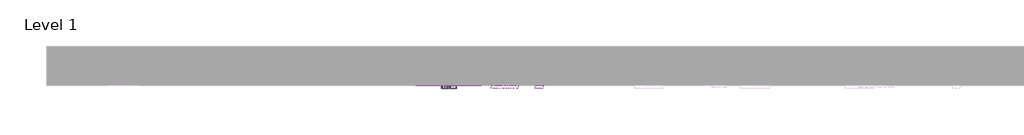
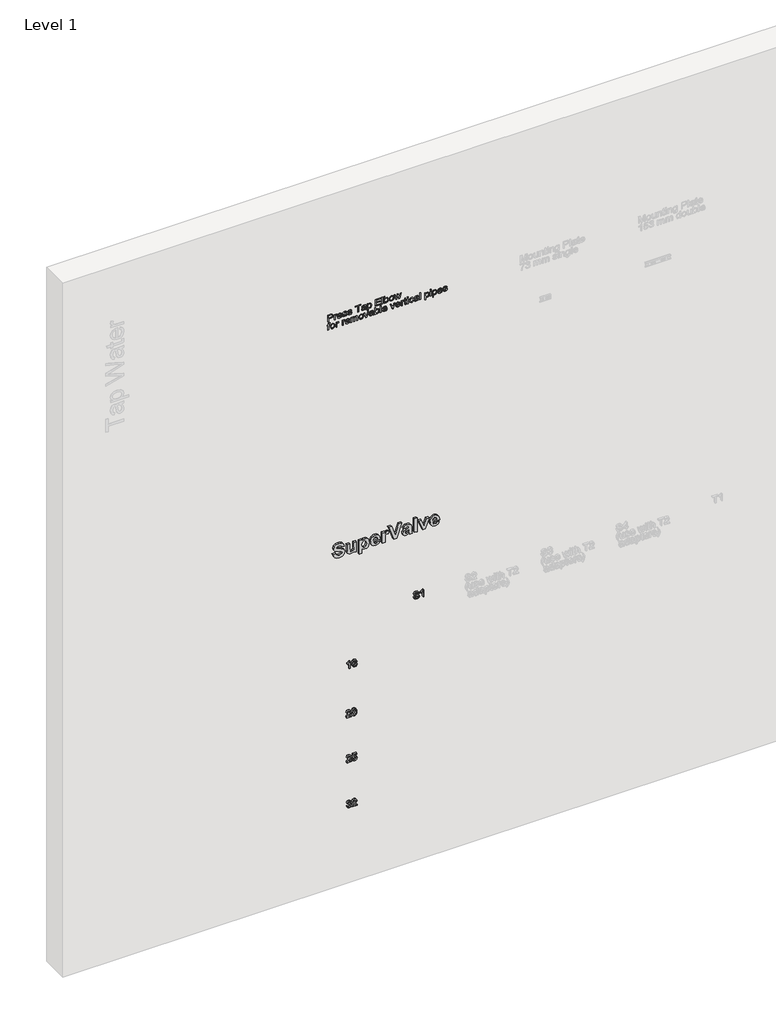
# One storey, part 12 of 57: 7 proxies.
"""IFC4 building model written with IfcOpenShell, lengths in millimetres."""

from ifc_helpers import new_model, si_unit, frame, origin, place, context, project, spatial, polyline, outline, extrude, element, save

model = new_model("IFC4")

# Units and contexts
model_context = context("Model", 3, world=origin())
ifc_project = project(units=[si_unit("LENGTHUNIT", "METRE", prefix="MILLI")], contexts=[model_context])

# Site, building, storey
site = spatial("IfcSite", under=ifc_project)
building = spatial("IfcBuilding", under=site)
storey = spatial("IfcBuildingStorey", under=building, Name="Level 1", Elevation=27.3876384)

# Proxies
placement = place(None, origin())
element("IfcBuildingElementProxy", 1, Name="100 mm Arial 2", ObjectType="100 mm Arial 2", at=placement, inside=storey, context=model_context, shape_type="SweptSolid", body=[
    extrude(outline(polyline([(2535.90515, 11527.6399588), (2520.5550791, 11531.7202373), (2509.3738509, 11539.9630325), (2502.5512457, 11552.5264946), (2500.277044, 11569.568774), (2503.9714356, 11591.6718639), (2515.2570431, 11605.3866604), (2531.5528529, 11610.2323865), (2547.6715344, 11606.1331299), (2557.9576318, 11594.7969144), (2565.1439827, 11572.4407839), (2571.7862965, 11553.3994844), (2577.8845732, 11550.31239), (2584.1093701, 11553.703133), (2587.7278497, 11568.2276592), (2584.3244546, 11581.7020672), (2573.1527154, 11587.5599554), (2573.1527154, 11606.9934677), (2586.4057129, 11604.213185), (2596.7107883, 11596.8338906), (2603.3341241, 11584.7859986), (2605.5419027, 11567.9999227), (2601.9993353, 11547.9844171), (2591.7005859, 11535.2817827), (2577.1760597, 11530.8788776), (2566.0232986, 11533.2764366), (2556.7050812, 11540.4691135), (2546.7605885, 11564.2043148), (2542.4335956, 11581.0568138), (2538.0686465, 11588.6353776), (2531.9830218, 11590.7988741), (2522.2536136, 11585.5862393), (2518.091097, 11570.074855), (2522.7976508, 11554.664687), (2537.5246094, 11547.0734712), (2535.90515, 11527.6399588)])), frame((0.0, 4529.8703674, 0.0), z_axis=(0.0, 1.0, 0.0), x_axis=(0.0, 0.0, 1.0)), (0.0, 0.0, 1.0), 15.0),
    extrude(outline(polyline([(2501.8965033, 11673.3913017), (2501.8965033, 11692.8248141), (2576.3916341, 11692.8248141), (2576.3916341, 11673.3913017), (2544.7868724, 11673.3913017), (2524.5562824, 11671.9616227), (2517.635624, 11666.6477717), (2514.8521782, 11657.8546134), (2516.9397626, 11650.7568267), (2522.5825663, 11646.9106107), (2541.9528186, 11645.8604925), (2576.3916341, 11645.8604925), (2576.3916341, 11626.4269801), (2529.3007923, 11626.4269801), (2512.815202, 11628.9573854), (2503.5665708, 11637.1558984), (2500.277044, 11649.934445), (2503.6298309, 11663.2317246), (2512.827854, 11673.3913017), (2501.8965033, 11673.3913017)])), frame((0.0, 4529.8703674, 0.0), z_axis=(0.0, 1.0, 0.0), x_axis=(0.0, 0.0, 1.0)), (0.0, 0.0, 1.0), 15.0),
    extrude(outline(polyline([(2576.3916341, 11712.2583265), (2474.3656941, 11712.2583265), (2474.3656941, 11731.6918388), (2510.9300501, 11731.6918388), (2502.680929, 11742.0158923), (2500.277044, 11752.9725471), (2502.8580573, 11764.7294425), (2510.6010974, 11774.59486), (2523.0064092, 11781.2846189), (2539.5742376, 11783.5145385), (2555.7024081, 11781.354205), (2567.8515164, 11774.8732046), (2575.4711992, 11765.2987837), (2578.0110935, 11753.8581889), (2574.5950464, 11740.927818), (2565.6627158, 11731.6918388), (2576.3916341, 11731.6918388), (2576.3916341, 11712.2583265)]), holes=[polyline([(2540.4345754, 11731.6918388), (2557.6286791, 11736.3604365), (2563.4359592, 11748.0888649), (2557.5148109, 11759.4883406), (2539.3971092, 11764.0810261), (2520.5835461, 11759.6148609), (2514.8521782, 11748.4431216), (2516.4147035, 11741.9684472), (2521.1022792, 11736.562869), (2529.0604038, 11732.9095964), (2540.4345754, 11731.6918388)])]), frame((0.0, 4529.8703674, 0.0), z_axis=(0.0, 1.0, 0.0), x_axis=(0.0, 0.0, 1.0)), (0.0, 0.0, 1.0), 15.0),
    extrude(outline(polyline([(2524.5689344, 11840.1956163), (2517.154847, 11835.6155828), (2514.8521782, 11828.1508873), (2519.9635969, 11817.2448406), (2534.2856906, 11812.6648071), (2534.2856906, 11861.248588), (2553.6369648, 11859.2052858), (2567.2568711, 11852.2656494), (2575.3225379, 11841.1634963), (2578.0110935, 11826.6326441), (2575.392124, 11813.4112766), (2567.5352157, 11802.6950104), (2555.0603178, 11795.5972236), (2538.5873796, 11793.2312947), (2524.4360882, 11795.0152304), (2512.9543743, 11800.3670375), (2503.4463765, 11811.8487514), (2500.277044, 11828.2267994), (2505.6541551, 11848.0398726), (2521.3300157, 11859.6291287), (2524.5689344, 11840.1956163)]), holes=[polyline([(2545.6219062, 11841.8150757), (2545.6219062, 11812.9937598), (2558.6534933, 11817.0424082), (2563.4359592, 11827.4676778), (2558.8938818, 11837.4880827), (2545.6219062, 11841.8150757)])]), frame((0.0, 4529.8703674, 0.0), z_axis=(0.0, 1.0, 0.0), x_axis=(0.0, 0.0, 1.0)), (0.0, 0.0, 1.0), 15.0),
    extrude(outline(polyline([(2501.8965033, 11895.2572347), (2524.1893736, 11895.2572347), (2548.3800479, 11896.864042), (2556.3634765, 11901.2669472), (2558.5775811, 11908.1116934), (2555.4145745, 11917.1199361), (2573.911837, 11922.7880439), (2578.0110935, 11910.8698351), (2575.6957727, 11903.0255788), (2566.0169726, 11895.2572347), (2576.3916341, 11895.2572347), (2576.3916341, 11875.8237223), (2501.8965033, 11875.8237223), (2501.8965033, 11895.2572347)])), frame((0.0, 4529.8703674, 0.0), z_axis=(0.0, 1.0, 0.0), x_axis=(0.0, 0.0, 1.0)), (0.0, 0.0, 1.0), 15.0),
    extrude(outline(polyline([(2501.8965033, 11955.556792), (2501.8965033, 11977.2676691), (2603.9224433, 12013.4777684), (2603.9224433, 11993.0573979), (2527.8078532, 11967.3231764), (2603.9224433, 11941.6648671), (2603.9224433, 11921.1685845), (2501.8965033, 11955.556792)])), frame((0.0, 4529.8703674, 0.0), z_axis=(0.0, 1.0, 0.0), x_axis=(0.0, 0.0, 1.0)), (0.0, 0.0, 1.0), 15.0),
    extrude(outline(polyline([(2553.719203, 12041.0085776), (2561.2851147, 12045.1078341), (2563.4359592, 12052.1676647), (2560.930858, 12061.2644716), (2552.5299125, 12063.6810087), (2550.4802843, 12063.6810087), (2545.6472102, 12045.5886111), (2541.0671767, 12030.7857403), (2533.501265, 12022.8023117), (2522.2662656, 12019.9556058), (2513.5711606, 12021.5529241), (2506.5144929, 12026.3448791), (2501.8364062, 12033.9076278), (2500.277044, 12043.8173274), (2502.8454053, 12055.6343199), (2510.5251852, 12066.0342856), (2508.0706921, 12066.717495), (2501.8965033, 12068.5393868), (2501.8965033, 12087.9728991), (2511.8916041, 12084.1393352), (2526.3655222, 12083.114521), (2549.3416019, 12083.114521), (2566.9658745, 12080.6347239), (2574.886043, 12072.0819541), (2578.0110935, 12053.5846917), (2576.7205868, 12041.6000598), (2572.8490668, 12032.9745409), (2566.2953171, 12027.0565556), (2556.9581217, 12023.1945245), (2553.719203, 12041.0085776)]), holes=[polyline([(2535.90515, 12063.6810087), (2532.3878867, 12063.6810087), (2523.8098129, 12062.9724952), (2517.9898808, 12058.6708063), (2514.8521782, 12049.384219), (2517.5470598, 12042.2105201), (2523.9363331, 12039.3891182), (2530.135826, 12042.9063815), (2533.2102684, 12052.7243539), (2535.90515, 12063.6810087)])]), frame((0.0, 4529.8703674, 0.0), z_axis=(0.0, 1.0, 0.0), x_axis=(0.0, 0.0, 1.0)), (0.0, 0.0, 1.0), 15.0),
    extrude(outline(polyline([(12121.9815458, 4529.8703674), (12102.5480334, 4529.8703674), (12102.5480334, 4544.8703674), (12121.9815458, 4544.8703674), (12121.9815458, 4529.8703674)])), frame((0.0, 0.0, 2501.8965033), z_axis=(0.0, 0.0, 1.0), x_axis=(1.0, 0.0, 0.0)), (0.0, 0.0, 1.0), 102.02594),
    extrude(outline(polyline([(2501.8965033, 12161.4052597), (2501.8965033, 12178.5107993), (2576.3916341, 12207.0031625), (2576.3916341, 12187.5696501), (2538.3849471, 12173.7789414), (2532.058934, 12171.7293132), (2525.6823127, 12169.7555971), (2538.3849471, 12165.7575568), (2576.3916341, 12151.9415441), (2576.3916341, 12132.5080317), (2501.8965033, 12161.4052597)])), frame((0.0, 4529.8703674, 0.0), z_axis=(0.0, 1.0, 0.0), x_axis=(0.0, 0.0, 1.0)), (0.0, 0.0, 1.0), 15.0),
    extrude(outline(polyline([(2524.5689344, 12261.2550512), (2517.154847, 12256.6750177), (2514.8521782, 12249.2103222), (2519.9635969, 12238.3042755), (2534.2856906, 12233.724242), (2534.2856906, 12282.3080229), (2553.6369648, 12280.2647207), (2567.2568711, 12273.3250843), (2575.3225379, 12262.2229312), (2578.0110935, 12247.692079), (2575.392124, 12234.4707115), (2567.5352157, 12223.7544453), (2555.0603178, 12216.6566585), (2538.5873796, 12214.2907296), (2524.4360882, 12216.0746653), (2512.9543743, 12221.4264724), (2503.4463765, 12232.9081863), (2500.277044, 12249.2862343), (2505.6541551, 12269.0993075), (2521.3300157, 12280.6885636), (2524.5689344, 12261.2550512)]), holes=[polyline([(2545.6219062, 12262.8745106), (2545.6219062, 12234.0531947), (2558.6534933, 12238.1018431), (2563.4359592, 12248.5271128), (2558.8938818, 12258.5475176), (2545.6219062, 12262.8745106)])]), frame((0.0, 4529.8703674, 0.0), z_axis=(0.0, 1.0, 0.0), x_axis=(0.0, 0.0, 1.0)), (0.0, 0.0, 1.0), 15.0),
])
element("IfcBuildingElementProxy", 2, Name="50mm Arial", ObjectType="50mm Arial", at=placement, inside=storey, context=model_context, shape_type="SweptSolid", body=[
    extrude(outline(polyline([(4282.6501433, 11497.3817345), (4282.6501433, 11503.6602539), (4303.0553313, 11503.6602539), (4303.0553313, 11516.4257591), (4307.4944407, 11531.0122802), (4318.3469595, 11535.0528508), (4325.195696, 11533.5567973), (4330.0517384, 11529.6020659), (4332.4000518, 11523.5013561), (4332.8782984, 11515.9965634), (4332.8782984, 11497.3817345), (4282.6501433, 11497.3817345)]), holes=[polyline([(4309.3338507, 11503.6602539), (4326.599779, 11503.6602539), (4326.599779, 11516.6464883), (4326.1705833, 11522.9250077), (4323.3256292, 11527.161782), (4318.1262303, 11528.7743314), (4311.6392445, 11526.0397419), (4309.3338507, 11516.7936411), (4309.3338507, 11503.6602539)])]), frame((0.0, 4542.8703674, 0.0), z_axis=(0.0, 1.0, 0.0), x_axis=(0.0, 0.0, 1.0)), (0.0, 0.0, 1.0), 2.0),
    extrude(outline(polyline([(4282.6501433, 11542.901), (4282.6501433, 11549.1795194), (4302.0375244, 11549.1795194), (4309.3706389, 11550.1973263), (4312.8042041, 11552.4598005), (4314.0427402, 11556.0098618), (4312.7551532, 11560.4244457), (4318.3837477, 11562.5213731), (4320.3212596, 11556.2183282), (4319.107249, 11552.2942536), (4314.0795284, 11548.3947045), (4319.5364447, 11548.3947045), (4319.5364447, 11542.901), (4282.6501433, 11542.901)])), frame((0.0, 4542.8703674, 0.0), z_axis=(0.0, 1.0, 0.0), x_axis=(0.0, 0.0, 1.0)), (0.0, 0.0, 1.0), 2.0),
    extrude(outline(polyline([(4293.6375522, 11592.2707638), (4289.4559602, 11588.2240618), (4288.1438477, 11582.0681698), (4290.9765391, 11573.9808972), (4299.1312567, 11570.3695223), (4299.1312567, 11598.5860713), (4300.8235138, 11598.6228595), (4315.2076998, 11593.8587877), (4320.3212596, 11581.5899232), (4315.1954371, 11568.959308), (4300.7867256, 11564.0910029), (4286.8378667, 11568.9102571), (4281.8653284, 11581.9455424), (4284.7470706, 11592.6693026), (4292.8527373, 11598.4266558), (4293.6375522, 11592.2707638)]), holes=[polyline([(4305.409776, 11570.3695223), (4311.6944268, 11573.8337444), (4314.0427402, 11581.5653977), (4311.0996842, 11589.8304799), (4305.409776, 11592.3443402), (4305.409776, 11570.3695223)])]), frame((0.0, 4542.8703674, 0.0), z_axis=(0.0, 1.0, 0.0), x_axis=(0.0, 0.0, 1.0)), (0.0, 0.0, 1.0), 2.0),
    extrude(outline(polyline([(4293.6375522, 11602.5469342), (4284.8329098, 11607.3539256), (4281.8653284, 11618.3045463), (4283.4043014, 11626.0791191), (4287.763703, 11631.3337003), (4293.7724423, 11633.1547162), (4299.2293585, 11631.6034804), (4302.5770847, 11627.3237865), (4305.5324034, 11618.1083426), (4306.8690413, 11612.7004772), (4308.2547301, 11610.3582952), (4310.0818774, 11609.6102685), (4312.8532551, 11611.4128902), (4314.0427402, 11617.4216295), (4312.7980728, 11622.9459908), (4309.3338507, 11625.3065669), (4310.1186656, 11631.5850863), (4315.7533915, 11629.4268453), (4319.0888549, 11624.5708029), (4320.3212596, 11616.9311202), (4319.5548388, 11611.5293862), (4317.6970347, 11607.5378666), (4314.122448, 11604.4599205), (4309.4442153, 11603.3317491), (4304.3797065, 11604.735832), (4300.792857, 11608.8622417), (4297.7210423, 11618.316809), (4295.9306833, 11624.7792694), (4293.1102547, 11626.8761968), (4289.6276385, 11624.7915321), (4288.1438477, 11618.3903854), (4289.7625285, 11611.7317213), (4294.4223671, 11608.8254535), (4293.6375522, 11602.5469342)])), frame((0.0, 4542.8703674, 0.0), z_axis=(0.0, 1.0, 0.0), x_axis=(0.0, 0.0, 1.0)), (0.0, 0.0, 1.0), 2.0),
    extrude(outline(polyline([(4293.6375522, 11637.8636057), (4284.8329098, 11642.6705971), (4281.8653284, 11653.6212178), (4283.4043014, 11661.3957907), (4287.763703, 11666.6503718), (4293.7724423, 11668.4713877), (4299.2293585, 11666.920152), (4302.5770847, 11662.6404581), (4305.5324034, 11653.4250141), (4306.8690413, 11648.0171488), (4308.2547301, 11645.6749667), (4310.0818774, 11644.92694), (4312.8532551, 11646.7295618), (4314.0427402, 11652.738301), (4312.7980728, 11658.2626623), (4309.3338507, 11660.6232385), (4310.1186656, 11666.9017579), (4315.7533915, 11664.7435168), (4319.0888549, 11659.8874745), (4320.3212596, 11652.2477917), (4319.5548388, 11646.8460578), (4317.6970347, 11642.8545381), (4314.122448, 11639.7765921), (4309.4442153, 11638.6484206), (4304.3797065, 11640.0525036), (4300.792857, 11644.1789133), (4297.7210423, 11653.6334806), (4295.9306833, 11660.0959409), (4293.1102547, 11662.1928683), (4289.6276385, 11660.1082037), (4288.1438477, 11653.707057), (4289.7625285, 11647.0483928), (4294.4223671, 11644.1421251), (4293.6375522, 11637.8636057)])), frame((0.0, 4542.8703674, 0.0), z_axis=(0.0, 1.0, 0.0), x_axis=(0.0, 0.0, 1.0)), (0.0, 0.0, 1.0), 2.0),
    extrude(outline(polyline([(4282.6501433, 11708.4969488), (4282.6501433, 11714.7754682), (4326.599779, 11714.7754682), (4326.599779, 11731.2565815), (4332.8782984, 11731.2565815), (4332.8782984, 11692.0158354), (4326.599779, 11692.0158354), (4326.599779, 11708.4969488), (4282.6501433, 11708.4969488)])), frame((0.0, 4542.8703674, 0.0), z_axis=(0.0, 1.0, 0.0), x_axis=(0.0, 0.0, 1.0)), (0.0, 0.0, 1.0), 2.0),
    extrude(outline(polyline([(4287.3590328, 11761.0795486), (4282.6501433, 11762.6491785), (4282.6501433, 11768.9276978), (4287.9292499, 11767.6768991), (4298.8369511, 11767.358068), (4306.6483121, 11767.358068), (4312.1420166, 11767.0514997), (4316.4033163, 11765.1262506), (4319.2053509, 11760.8281626), (4320.3212596, 11753.2191367), (4319.0581981, 11744.9356604), (4315.4652172, 11739.4664814), (4309.3338507, 11736.750286), (4308.5490357, 11743.0288054), (4312.834861, 11746.0577005), (4314.0427402, 11752.4097963), (4312.2278557, 11759.3505032), (4306.194591, 11761.0427604), (4304.0363499, 11750.1534534), (4303.0921195, 11744.7210626), (4301.0319803, 11740.3248727), (4297.4267367, 11737.1672189), (4292.4603298, 11735.9654711), (4284.8451725, 11739.1476503), (4281.8653284, 11748.2649925), (4283.1038644, 11754.9911016), (4287.3590328, 11761.0795486)]), holes=[polyline([(4299.9160716, 11761.0795486), (4298.1379753, 11761.0427604), (4293.2819329, 11760.049479), (4289.6460326, 11755.9537262), (4288.1438477, 11749.6016304), (4289.5050111, 11744.1140573), (4292.9017882, 11742.2439905), (4295.3175466, 11743.1023818), (4296.9730156, 11745.5487971), (4297.9908225, 11750.950531), (4299.9160716, 11761.0795486)])]), frame((0.0, 4542.8703674, 0.0), z_axis=(0.0, 1.0, 0.0), x_axis=(0.0, 0.0, 1.0)), (0.0, 0.0, 1.0), 2.0),
    extrude(outline(polyline([(4268.5234747, 11775.9910322), (4268.5234747, 11782.2695515), (4287.5552365, 11782.2695515), (4283.4778778, 11786.2488085), (4281.8653284, 11791.7118561), (4284.2749554, 11799.6519758), (4291.2033997, 11805.4031977), (4301.3753368, 11807.3836291), (4311.0506333, 11805.6300582), (4317.8932384, 11800.4306594), (4320.3212596, 11792.4721455), (4318.5860828, 11786.6105591), (4313.3805526, 11782.2695515), (4319.5364447, 11782.2695515), (4319.5364447, 11775.9910322), (4268.5234747, 11775.9910322)]), holes=[polyline([(4300.7989884, 11782.2695515), (4310.6520945, 11785.1696879), (4314.0427402, 11791.8344834), (4310.8544296, 11798.3705202), (4301.2649722, 11801.1051097), (4291.3444211, 11798.3030752), (4288.1438477, 11791.576966), (4291.2340565, 11784.9857469), (4300.7989884, 11782.2695515)])]), frame((0.0, 4542.8703674, 0.0), z_axis=(0.0, 1.0, 0.0), x_axis=(0.0, 0.0, 1.0)), (0.0, 0.0, 1.0), 2.0),
    extrude(outline(polyline([(4282.6501433, 11834.8521514), (4282.6501433, 11871.7384528), (4288.9286627, 11871.7384528), (4288.9286627, 11841.1306708), (4305.409776, 11841.1306708), (4305.409776, 11869.384008), (4311.6882954, 11869.384008), (4311.6882954, 11841.1306708), (4326.599779, 11841.1306708), (4326.599779, 11870.9536378), (4332.8782984, 11870.9536378), (4332.8782984, 11834.8521514), (4282.6501433, 11834.8521514)])), frame((0.0, 4542.8703674, 0.0), z_axis=(0.0, 1.0, 0.0), x_axis=(0.0, 0.0, 1.0)), (0.0, 0.0, 1.0), 2.0),
    extrude(outline(polyline([(11886.6499363, 4542.8703674), (11880.3714169, 4542.8703674), (11880.3714169, 4544.8703674), (11886.6499363, 4544.8703674), (11886.6499363, 4542.8703674)])), frame((0.0, 0.0, 4282.6501433), z_axis=(0.0, 0.0, 1.0), x_axis=(1.0, 0.0, 0.0)), (0.0, 0.0, 1.0), 50.2281551),
    extrude(outline(polyline([(4282.6501433, 11902.3462348), (4288.5239925, 11902.3462348), (4283.5299944, 11906.5860748), (4281.8653284, 11912.168684), (4287.027939, 11922.9660206), (4301.645117, 11927.4603123), (4309.1315156, 11926.3750604), (4315.109598, 11923.3768222), (4318.9539648, 11918.4962544), (4320.3212596, 11912.2054722), (4314.2512067, 11902.3462348), (4332.8782984, 11902.3462348), (4332.8782984, 11896.0677154), (4282.6501433, 11896.0677154), (4282.6501433, 11902.3462348)]), holes=[polyline([(4301.3508114, 11902.3462348), (4310.7808532, 11905.1789261), (4314.0427402, 11911.8989039), (4310.8912178, 11918.4655975), (4301.1300822, 11921.1817929), (4291.4057348, 11918.3491016), (4288.1438477, 11911.6291238), (4292.5706944, 11904.0630174), (4301.3508114, 11902.3462348)])]), frame((0.0, 4542.8703674, 0.0), z_axis=(0.0, 1.0, 0.0), x_axis=(0.0, 0.0, 1.0)), (0.0, 0.0, 1.0), 2.0),
    extrude(outline(polyline([(4301.093294, 11932.9540168), (4286.8194726, 11937.5096221), (4281.8653284, 11949.4473929), (4284.1155399, 11957.9515983), (4290.4369788, 11963.8806298), (4301.6083288, 11965.9162435), (4315.3487213, 11961.3115872), (4320.3212596, 11949.4473929), (4316.2377694, 11938.3864076), (4309.9868412, 11934.3121145), (4301.093294, 11932.9540168)]), holes=[polyline([(4301.1055567, 11939.2325362), (4310.8237727, 11942.1388039), (4314.0427402, 11949.4473929), (4310.81151, 11956.7130623), (4301.3017604, 11959.6377241), (4291.393472, 11956.7314564), (4288.1438477, 11949.4473929), (4291.3750779, 11942.1388039), (4301.1055567, 11939.2325362)])]), frame((0.0, 4542.8703674, 0.0), z_axis=(0.0, 1.0, 0.0), x_axis=(0.0, 0.0, 1.0)), (0.0, 0.0, 1.0), 2.0),
    extrude(outline(polyline([(4282.6501433, 11979.0986817), (4282.6501433, 11986.7751527), (4311.0261078, 11992.9923584), (4304.2816046, 11994.39031), (4282.6501433, 11999.2095641), (4282.6501433, 12006.8001959), (4319.5364447, 12018.1064359), (4319.5364447, 12011.5581364), (4298.1625007, 12005.1815152), (4291.0869037, 12003.1949524), (4297.7946187, 12001.8092635), (4319.5364447, 11996.7692802), (4319.5364447, 11989.289013), (4297.7333051, 11984.2245042), (4290.3266142, 11982.667137), (4298.0153479, 11980.7664134), (4319.5364447, 11974.4020549), (4319.5364447, 11967.8782808), (4282.6501433, 11979.0986817)])), frame((0.0, 4542.8703674, 0.0), z_axis=(0.0, 1.0, 0.0), x_axis=(0.0, 0.0, 1.0)), (0.0, 0.0, 1.0), 2.0),
    extrude(outline(polyline([(4221.6627344, 11498.1665494), (4221.6627344, 11504.4450688), (4252.2705164, 11504.4450688), (4252.2705164, 11511.5084031), (4258.5490357, 11511.5084031), (4258.5490357, 11504.4450688), (4261.4675662, 11504.4450688), (4265.3548526, 11505.6038971), (4266.397185, 11509.5586285), (4266.1028794, 11513.1761348), (4271.9889913, 11514.0958398), (4272.6757044, 11508.3691434), (4271.2409646, 11502.0415731), (4267.500831, 11498.828737), (4262.2646439, 11498.1665494), (4258.5490357, 11498.1665494), (4258.5490357, 11492.6728449), (4252.2705164, 11492.6728449), (4252.2705164, 11498.1665494), (4221.6627344, 11498.1665494)])), frame((0.0, 4542.8703674, 0.0), z_axis=(0.0, 1.0, 0.0), x_axis=(0.0, 0.0, 1.0)), (0.0, 0.0, 1.0), 2.0),
    extrude(outline(polyline([(4240.105885, 11515.4324777), (4225.8320636, 11519.9880831), (4220.8779194, 11531.9258538), (4223.128131, 11540.4300593), (4229.4495699, 11546.3590908), (4240.6209198, 11548.3947045), (4254.3613124, 11543.7900482), (4259.3338507, 11531.9258538), (4255.2503605, 11520.8648685), (4248.9994323, 11516.7905754), (4240.105885, 11515.4324777)]), holes=[polyline([(4240.1181478, 11521.7109971), (4249.8363638, 11524.6172649), (4253.0553313, 11531.9258538), (4249.8241011, 11539.1915232), (4240.3143515, 11542.1161851), (4230.4060631, 11539.2099173), (4227.1564388, 11531.9258538), (4230.387669, 11524.6172649), (4240.1181478, 11521.7109971)])]), frame((0.0, 4542.8703674, 0.0), z_axis=(0.0, 1.0, 0.0), x_axis=(0.0, 0.0, 1.0)), (0.0, 0.0, 1.0), 2.0),
    extrude(outline(polyline([(4221.6627344, 11555.4580388), (4221.6627344, 11561.7365582), (4241.0501155, 11561.7365582), (4248.3832299, 11562.754365), (4251.8167952, 11565.0168393), (4253.0553313, 11568.5669005), (4251.7677443, 11572.9814845), (4257.3963388, 11575.0784119), (4259.3338507, 11568.775367), (4258.1198401, 11564.8512924), (4253.0921195, 11560.9517432), (4258.5490357, 11560.9517432), (4258.5490357, 11555.4580388), (4221.6627344, 11555.4580388)])), frame((0.0, 4542.8703674, 0.0), z_axis=(0.0, 1.0, 0.0), x_axis=(0.0, 0.0, 1.0)), (0.0, 0.0, 1.0), 2.0),
    extrude(outline(polyline([(4221.6627344, 11598.6228595), (4221.6627344, 11604.9013789), (4241.0501155, 11604.9013789), (4248.3832299, 11605.9191858), (4251.8167952, 11608.1816601), (4253.0553313, 11611.7317213), (4251.7677443, 11616.1463053), (4257.3963388, 11618.2432326), (4259.3338507, 11611.9401878), (4258.1198401, 11608.0161132), (4253.0921195, 11604.116564), (4258.5490357, 11604.116564), (4258.5490357, 11598.6228595), (4221.6627344, 11598.6228595)])), frame((0.0, 4542.8703674, 0.0), z_axis=(0.0, 1.0, 0.0), x_axis=(0.0, 0.0, 1.0)), (0.0, 0.0, 1.0), 2.0),
    extrude(outline(polyline([(4232.6501433, 11647.9926233), (4228.4685513, 11643.9459214), (4227.1564388, 11637.7900293), (4229.9891302, 11629.7027568), (4238.1438477, 11626.0913819), (4238.1438477, 11654.3079309), (4239.8361049, 11654.3447191), (4254.2202909, 11649.5806472), (4259.3338507, 11637.3117827), (4254.2080282, 11624.6811675), (4239.7993167, 11619.8128625), (4225.8504577, 11624.6321166), (4220.8779194, 11637.667402), (4223.7596617, 11648.3911621), (4231.8653284, 11654.1485154), (4232.6501433, 11647.9926233)]), holes=[polyline([(4244.4223671, 11626.0913819), (4250.7070179, 11629.555604), (4253.0553313, 11637.2872572), (4250.1122753, 11645.5523394), (4244.4223671, 11648.0661997), (4244.4223671, 11626.0913819)])]), frame((0.0, 4542.8703674, 0.0), z_axis=(0.0, 1.0, 0.0), x_axis=(0.0, 0.0, 1.0)), (0.0, 0.0, 1.0), 2.0),
    extrude(outline(polyline([(4221.6627344, 11660.6232385), (4221.6627344, 11666.9017579), (4240.2653006, 11666.9017579), (4247.7578305, 11667.858251), (4251.7064306, 11670.9484598), (4253.0553313, 11675.5960357), (4251.0319803, 11680.3601075), (4244.9496646, 11681.8132414), (4221.6627344, 11681.8132414), (4221.6627344, 11688.0917608), (4242.4848553, 11688.0917608), (4250.541471, 11690.5504388), (4253.0553313, 11696.7247249), (4252.0743126, 11700.3115744), (4249.4930073, 11702.4207645), (4244.2506889, 11703.0032443), (4221.6627344, 11703.0032443), (4221.6627344, 11709.2817637), (4246.9484902, 11709.2817637), (4256.2988242, 11706.4061528), (4259.3338507, 11698.1962529), (4257.5097691, 11692.009704), (4252.0375244, 11687.1107421), (4257.4147329, 11683.6526514), (4259.3338507, 11677.3618693), (4257.4515211, 11671.2182399), (4252.4789828, 11666.9017579), (4258.5490357, 11666.9017579), (4258.5490357, 11660.6232385), (4221.6627344, 11660.6232385)])), frame((0.0, 4542.8703674, 0.0), z_axis=(0.0, 1.0, 0.0), x_axis=(0.0, 0.0, 1.0)), (0.0, 0.0, 1.0), 2.0),
    extrude(outline(polyline([(4240.105885, 11717.1299129), (4225.8320636, 11721.6855183), (4220.8779194, 11733.623289), (4223.128131, 11742.1274945), (4229.4495699, 11748.056526), (4240.6209198, 11750.0921397), (4254.3613124, 11745.4874834), (4259.3338507, 11733.623289), (4255.2503605, 11722.5623037), (4248.9994323, 11718.4880106), (4240.105885, 11717.1299129)]), holes=[polyline([(4240.1181478, 11723.4084323), (4249.8363638, 11726.3147001), (4253.0553313, 11733.623289), (4249.8241011, 11740.8889585), (4240.3143515, 11743.8136203), (4230.4060631, 11740.9073526), (4227.1564388, 11733.623289), (4230.387669, 11726.3147001), (4240.1181478, 11723.4084323)])]), frame((0.0, 4542.8703674, 0.0), z_axis=(0.0, 1.0, 0.0), x_axis=(0.0, 0.0, 1.0)), (0.0, 0.0, 1.0), 2.0),
    extrude(outline(polyline([(4221.6627344, 11766.2053711), (4221.6627344, 11774.1638849), (4258.5490357, 11786.9784411), (4258.5490357, 11780.3320397), (4236.0346576, 11772.4225768), (4229.0203743, 11770.1049202), (4236.4515906, 11767.7382127), (4258.5490357, 11759.8778008), (4258.5490357, 11753.2313994), (4221.6627344, 11766.2053711)])), frame((0.0, 4542.8703674, 0.0), z_axis=(0.0, 1.0, 0.0), x_axis=(0.0, 0.0, 1.0)), (0.0, 0.0, 1.0), 2.0),
    extrude(outline(polyline([(4226.3716239, 11816.0165932), (4221.6627344, 11817.5862231), (4221.6627344, 11823.8647425), (4226.941841, 11822.6139437), (4237.8495421, 11822.2951126), (4245.6609032, 11822.2951126), (4251.1546076, 11821.9885443), (4255.4159074, 11820.0632952), (4258.2179419, 11815.7652072), (4259.3338507, 11808.1561813), (4258.0707891, 11799.872705), (4254.4778083, 11794.403526), (4248.3464417, 11791.6873306), (4247.5616268, 11797.96585), (4251.8474521, 11800.9947451), (4253.0553313, 11807.3468409), (4251.2404468, 11814.2875479), (4245.207182, 11815.979805), (4243.048941, 11805.090498), (4242.1047106, 11799.6581072), (4240.0445714, 11795.2619173), (4236.4393278, 11792.1042635), (4231.4729209, 11790.9025157), (4223.8577636, 11794.084695), (4220.8779194, 11803.2020371), (4222.1164555, 11809.9281462), (4226.3716239, 11816.0165932)]), holes=[polyline([(4238.9286627, 11816.0165932), (4237.1505663, 11815.979805), (4232.294524, 11814.9865236), (4228.6586236, 11810.8907708), (4227.1564388, 11804.538675), (4228.5176022, 11799.0511019), (4231.9143793, 11797.1810351), (4234.3301377, 11798.0394264), (4235.9856067, 11800.4858417), (4237.0034136, 11805.8875756), (4238.9286627, 11816.0165932)])]), frame((0.0, 4542.8703674, 0.0), z_axis=(0.0, 1.0, 0.0), x_axis=(0.0, 0.0, 1.0)), (0.0, 0.0, 1.0), 2.0),
    extrude(outline(polyline([(4221.6627344, 11837.2065962), (4227.5365835, 11837.2065962), (4222.5425855, 11841.4464361), (4220.8779194, 11847.0290454), (4226.0405301, 11857.826382), (4240.657708, 11862.3206737), (4248.1441066, 11861.2354218), (4254.1221891, 11858.2371835), (4257.9665559, 11853.3566157), (4259.3338507, 11847.0658336), (4253.2637977, 11837.2065962), (4271.8908894, 11837.2065962), (4271.8908894, 11830.9280768), (4221.6627344, 11830.9280768), (4221.6627344, 11837.2065962)]), holes=[polyline([(4240.3634024, 11837.2065962), (4249.7934443, 11840.0392875), (4253.0553313, 11846.7592653), (4249.9038088, 11853.3259589), (4240.1426732, 11856.0421543), (4230.4183258, 11853.2094629), (4227.1564388, 11846.4894852), (4231.5832855, 11838.9233788), (4240.3634024, 11837.2065962)])]), frame((0.0, 4542.8703674, 0.0), z_axis=(0.0, 1.0, 0.0), x_axis=(0.0, 0.0, 1.0)), (0.0, 0.0, 1.0), 2.0),
    extrude(outline(polyline([(11875.6625274, 4542.8703674), (11869.384008, 4542.8703674), (11869.384008, 4544.8703674), (11875.6625274, 4544.8703674), (11875.6625274, 4542.8703674)])), frame((0.0, 0.0, 4221.6627344), z_axis=(0.0, 0.0, 1.0), x_axis=(1.0, 0.0, 0.0)), (0.0, 0.0, 1.0), 50.2281551),
    extrude(outline(polyline([(4232.6501433, 11910.9056225), (4228.4685513, 11906.8589206), (4227.1564388, 11900.7030285), (4229.9891302, 11892.615756), (4238.1438477, 11889.0043811), (4238.1438477, 11917.2209301), (4239.8361049, 11917.2577183), (4254.2202909, 11912.4936465), (4259.3338507, 11900.2247819), (4254.2080282, 11887.5941668), (4239.7993167, 11882.7258617), (4225.8504577, 11887.5451158), (4220.8779194, 11900.5804012), (4223.7596617, 11911.3041613), (4231.8653284, 11917.0615146), (4232.6501433, 11910.9056225)]), holes=[polyline([(4244.4223671, 11889.0043811), (4250.7070179, 11892.4686032), (4253.0553313, 11900.2002565), (4250.1122753, 11908.4653386), (4244.4223671, 11910.9791989), (4244.4223671, 11889.0043811)])]), frame((0.0, 4542.8703674, 0.0), z_axis=(0.0, 1.0, 0.0), x_axis=(0.0, 0.0, 1.0)), (0.0, 0.0, 1.0), 2.0),
    extrude(outline(polyline([(4221.6627344, 11952.2065078), (4221.6627344, 11960.1650217), (4258.5490357, 11972.9795778), (4258.5490357, 11966.3331765), (4236.0346576, 11958.4237136), (4229.0203743, 11956.106057), (4236.4515906, 11953.7393495), (4258.5490357, 11945.8789375), (4258.5490357, 11939.2325362), (4221.6627344, 11952.2065078)])), frame((0.0, 4542.8703674, 0.0), z_axis=(0.0, 1.0, 0.0), x_axis=(0.0, 0.0, 1.0)), (0.0, 0.0, 1.0), 2.0),
    extrude(outline(polyline([(4232.6501433, 12004.2985984), (4228.4685513, 12000.2518964), (4227.1564388, 11994.0960044), (4229.9891302, 11986.0087318), (4238.1438477, 11982.3973569), (4238.1438477, 12010.6139059), (4239.8361049, 12010.6506941), (4254.2202909, 12005.8866223), (4259.3338507, 11993.6177578), (4254.2080282, 11980.9871426), (4239.7993167, 11976.1188375), (4225.8504577, 11980.9380917), (4220.8779194, 11993.973377), (4223.7596617, 12004.6971372), (4231.8653284, 12010.4544904), (4232.6501433, 12004.2985984)]), holes=[polyline([(4244.4223671, 11982.3973569), (4250.7070179, 11985.861579), (4253.0553313, 11993.5932323), (4250.1122753, 12001.8583145), (4244.4223671, 12004.3721748), (4244.4223671, 11982.3973569)])]), frame((0.0, 4542.8703674, 0.0), z_axis=(0.0, 1.0, 0.0), x_axis=(0.0, 0.0, 1.0)), (0.0, 0.0, 1.0), 2.0),
    extrude(outline(polyline([(4221.6627344, 12016.9292135), (4221.6627344, 12023.2077329), (4241.0501155, 12023.2077329), (4248.3832299, 12024.2255398), (4251.8167952, 12026.488014), (4253.0553313, 12030.0380753), (4251.7677443, 12034.4526592), (4257.3963388, 12036.5495866), (4259.3338507, 12030.2465418), (4258.1198401, 12026.3224671), (4253.0921195, 12022.422918), (4258.5490357, 12022.422918), (4258.5490357, 12016.9292135), (4221.6627344, 12016.9292135)])), frame((0.0, 4542.8703674, 0.0), z_axis=(0.0, 1.0, 0.0), x_axis=(0.0, 0.0, 1.0)), (0.0, 0.0, 1.0), 2.0),
    extrude(outline(polyline([(4226.8989214, 12053.8155149), (4227.1564388, 12051.0809254), (4228.7260687, 12047.8680893), (4231.9634302, 12047.5369955), (4252.2705164, 12047.5369955), (4252.2705164, 12053.8155149), (4258.5490357, 12053.8155149), (4258.5490357, 12047.5369955), (4271.2041764, 12047.5369955), (4267.5130937, 12041.2584761), (4258.5490357, 12041.2584761), (4258.5490357, 12036.5495866), (4252.2705164, 12036.5495866), (4252.2705164, 12041.2584761), (4231.7794892, 12041.2584761), (4224.6548412, 12042.0187656), (4221.9202517, 12044.6429905), (4220.8779194, 12049.903703), (4221.4787934, 12054.6003298), (4226.8989214, 12053.8155149)])), frame((0.0, 4542.8703674, 0.0), z_axis=(0.0, 1.0, 0.0), x_axis=(0.0, 0.0, 1.0)), (0.0, 0.0, 1.0), 2.0),
    extrude(outline(polyline([(12066.3725537, 4542.8703674), (12060.0940343, 4542.8703674), (12060.0940343, 4544.8703674), (12066.3725537, 4544.8703674), (12066.3725537, 4542.8703674)])), frame((0.0, 0.0, 4221.6627344), z_axis=(0.0, 0.0, 1.0), x_axis=(1.0, 0.0, 0.0)), (0.0, 0.0, 1.0), 36.8863014),
    extrude(outline(polyline([(12066.3725537, 4542.8703674), (12060.0940343, 4542.8703674), (12060.0940343, 4544.8703674), (12066.3725537, 4544.8703674), (12066.3725537, 4542.8703674)])), frame((0.0, 0.0, 4265.61237), z_axis=(0.0, 0.0, 1.0), x_axis=(1.0, 0.0, 0.0)), (0.0, 0.0, 1.0), 6.2785194),
    extrude(outline(polyline([(4235.004588, 12099.3347805), (4229.0816879, 12096.3242795), (4227.1564388, 12090.4075107), (4230.2405162, 12083.2399432), (4240.1426732, 12080.4992223), (4249.9528598, 12083.3012568), (4253.0553313, 12090.579189), (4251.4795701, 12095.6375664), (4246.7768119, 12098.5499655), (4247.5616268, 12104.8284849), (4256.2681674, 12100.0766758), (4259.3338507, 12090.530138), (4257.1020332, 12081.9891444), (4250.4004495, 12076.1398207), (4239.970995, 12074.2207029), (4225.8136695, 12078.7149946), (4220.8779194, 12090.6159772), (4224.415718, 12100.5733165), (4234.2197731, 12105.6132998), (4235.004588, 12099.3347805)])), frame((0.0, 4542.8703674, 0.0), z_axis=(0.0, 1.0, 0.0), x_axis=(0.0, 0.0, 1.0)), (0.0, 0.0, 1.0), 2.0),
    extrude(outline(polyline([(4226.3716239, 12134.651452), (4221.6627344, 12136.2210818), (4221.6627344, 12142.4996012), (4226.941841, 12141.2488024), (4237.8495421, 12140.9299714), (4245.6609032, 12140.9299714), (4251.1546076, 12140.623403), (4255.4159074, 12138.6981539), (4258.2179419, 12134.400066), (4259.3338507, 12126.79104), (4258.0707891, 12118.5075638), (4254.4778083, 12113.0383848), (4248.3464417, 12110.3221894), (4247.5616268, 12116.6007088), (4251.8474521, 12119.6296039), (4253.0553313, 12125.9816996), (4251.2404468, 12132.9224066), (4245.207182, 12134.6146638), (4243.048941, 12123.7253567), (4242.1047106, 12118.2929659), (4240.0445714, 12113.8967761), (4236.4393278, 12110.7391223), (4231.4729209, 12109.5373745), (4223.8577636, 12112.7195537), (4220.8779194, 12121.8368958), (4222.1164555, 12128.563005), (4226.3716239, 12134.651452)]), holes=[polyline([(4238.9286627, 12134.651452), (4237.1505663, 12134.6146638), (4232.294524, 12133.6213824), (4228.6586236, 12129.5256295), (4227.1564388, 12123.1735337), (4228.5176022, 12117.6859606), (4231.9143793, 12115.8158938), (4234.3301377, 12116.6742852), (4235.9856067, 12119.1207004), (4237.0034136, 12124.5224344), (4238.9286627, 12134.651452)])]), frame((0.0, 4542.8703674, 0.0), z_axis=(0.0, 1.0, 0.0), x_axis=(0.0, 0.0, 1.0)), (0.0, 0.0, 1.0), 2.0),
    extrude(outline(polyline([(12155.8414549, 4542.8703674), (12149.5629355, 4542.8703674), (12149.5629355, 4544.8703674), (12155.8414549, 4544.8703674), (12155.8414549, 4542.8703674)])), frame((0.0, 0.0, 4221.6627344), z_axis=(0.0, 0.0, 1.0), x_axis=(1.0, 0.0, 0.0)), (0.0, 0.0, 1.0), 50.2281551),
    extrude(outline(polyline([(4207.5360657, 12184.8796071), (4207.5360657, 12191.1581264), (4226.5678276, 12191.1581264), (4222.4904688, 12195.1373834), (4220.8779194, 12200.600431), (4223.2875465, 12208.5405507), (4230.2159907, 12214.2917726), (4240.3879279, 12216.272204), (4250.0632244, 12214.5186331), (4256.9058295, 12209.3192343), (4259.3338507, 12201.3607204), (4257.5986739, 12195.499134), (4252.3931437, 12191.1581264), (4258.5490357, 12191.1581264), (4258.5490357, 12184.8796071), (4207.5360657, 12184.8796071)]), holes=[polyline([(4239.8115794, 12191.1581264), (4249.6646856, 12194.0582628), (4253.0553313, 12200.7230583), (4249.8670206, 12207.2590951), (4240.2775633, 12209.9936846), (4230.3570122, 12207.1916501), (4227.1564388, 12200.4655409), (4230.2466476, 12193.8743218), (4239.8115794, 12191.1581264)])]), frame((0.0, 4542.8703674, 0.0), z_axis=(0.0, 1.0, 0.0), x_axis=(0.0, 0.0, 1.0)), (0.0, 0.0, 1.0), 2.0),
    extrude(outline(polyline([(12229.6140577, 4542.8703674), (12223.3355383, 4542.8703674), (12223.3355383, 4544.8703674), (12229.6140577, 4544.8703674), (12229.6140577, 4542.8703674)])), frame((0.0, 0.0, 4265.61237), z_axis=(0.0, 0.0, 1.0), x_axis=(1.0, 0.0, 0.0)), (0.0, 0.0, 1.0), 6.2785194),
    extrude(outline(polyline([(12229.6140577, 4542.8703674), (12223.3355383, 4542.8703674), (12223.3355383, 4544.8703674), (12229.6140577, 4544.8703674), (12229.6140577, 4542.8703674)])), frame((0.0, 0.0, 4221.6627344), z_axis=(0.0, 0.0, 1.0), x_axis=(1.0, 0.0, 0.0)), (0.0, 0.0, 1.0), 36.8863014),
    extrude(outline(polyline([(4207.5360657, 12239.0318368), (4207.5360657, 12245.3103561), (4226.5678276, 12245.3103561), (4222.4904688, 12249.2896131), (4220.8779194, 12254.7526607), (4223.2875465, 12262.6927804), (4230.2159907, 12268.4440023), (4240.3879279, 12270.4244337), (4250.0632244, 12268.6708628), (4256.9058295, 12263.471464), (4259.3338507, 12255.5129501), (4257.5986739, 12249.6513637), (4252.3931437, 12245.3103561), (4258.5490357, 12245.3103561), (4258.5490357, 12239.0318368), (4207.5360657, 12239.0318368)]), holes=[polyline([(4239.8115794, 12245.3103561), (4249.6646856, 12248.2104925), (4253.0553313, 12254.875288), (4249.8670206, 12261.4113248), (4240.2775633, 12264.1459143), (4230.3570122, 12261.3438798), (4227.1564388, 12254.6177706), (4230.2466476, 12248.0265515), (4239.8115794, 12245.3103561)])]), frame((0.0, 4542.8703674, 0.0), z_axis=(0.0, 1.0, 0.0), x_axis=(0.0, 0.0, 1.0)), (0.0, 0.0, 1.0), 2.0),
    extrude(outline(polyline([(4232.6501433, 12303.313084), (4228.4685513, 12299.2663821), (4227.1564388, 12293.11049), (4229.9891302, 12285.0232175), (4238.1438477, 12281.4118426), (4238.1438477, 12309.6283916), (4239.8361049, 12309.6651798), (4254.2202909, 12304.901108), (4259.3338507, 12292.6322435), (4254.2080282, 12280.0016283), (4239.7993167, 12275.1333232), (4225.8504577, 12279.9525773), (4220.8779194, 12292.9878627), (4223.7596617, 12303.7116229), (4231.8653284, 12309.4689761), (4232.6501433, 12303.313084)]), holes=[polyline([(4244.4223671, 12281.4118426), (4250.7070179, 12284.8760647), (4253.0553313, 12292.607718), (4250.1122753, 12300.8728001), (4244.4223671, 12303.3866604), (4244.4223671, 12281.4118426)])]), frame((0.0, 4542.8703674, 0.0), z_axis=(0.0, 1.0, 0.0), x_axis=(0.0, 0.0, 1.0)), (0.0, 0.0, 1.0), 2.0),
    extrude(outline(polyline([(4232.6501433, 12313.5892544), (4223.8455009, 12318.3962458), (4220.8779194, 12329.3468666), (4222.4168924, 12337.1214394), (4226.7762941, 12342.3760206), (4232.7850333, 12344.1970364), (4238.2419496, 12342.6458007), (4241.5896758, 12338.3661068), (4244.5449945, 12329.1506628), (4245.8816324, 12323.7427975), (4247.2673212, 12321.4006155), (4249.0944685, 12320.6525887), (4251.8658462, 12322.4552105), (4253.0553313, 12328.4639498), (4251.8106639, 12333.9883111), (4248.3464417, 12336.3488872), (4249.1312567, 12342.6274066), (4254.7659826, 12340.4691656), (4258.101446, 12335.6131232), (4259.3338507, 12327.9734405), (4258.5674298, 12322.5717065), (4256.7096258, 12318.5801868), (4253.135039, 12315.5022408), (4248.4568063, 12314.3740694), (4243.3922975, 12315.7781523), (4239.8054481, 12319.904562), (4236.7336334, 12329.3591293), (4234.9432744, 12335.8215897), (4232.1228457, 12337.9185171), (4228.6402295, 12335.8338524), (4227.1564388, 12329.4327057), (4228.7751196, 12322.7740416), (4233.4349582, 12319.8677738), (4232.6501433, 12313.5892544)])), frame((0.0, 4542.8703674, 0.0), z_axis=(0.0, 1.0, 0.0), x_axis=(0.0, 0.0, 1.0)), (0.0, 0.0, 1.0), 2.0),
])
element("IfcBuildingElementProxy", 3, Name="50mm Arial", ObjectType="50mm Arial", at=placement, inside=storey, context=model_context, shape_type="SweptSolid", body=[
    extrude(outline(polyline([(2014.3955571, 12101.0606945), (2004.8060998, 12103.7707585), (1998.454004, 12110.8647497), (1996.3448139, 12122.0790192), (1998.3007198, 12131.576506), (2003.7821616, 12138.0512291), (2011.2930856, 12140.3014407), (2018.3932081, 12138.3455347), (2023.4822424, 12132.2693504), (2026.6337648, 12121.1593142), (2030.1409065, 12110.9076692), (2034.4941768, 12108.9088437), (2039.7058384, 12111.7292724), (2041.8640794, 12120.7178558), (2039.6813129, 12129.6819137), (2033.2311153, 12133.2381064), (2033.2311153, 12139.5166257), (2041.0915272, 12137.0272909), (2046.3522398, 12130.405415), (2048.1425988, 12120.4726011), (2046.4319475, 12111.1651866), (2041.4164897, 12104.8069595), (2034.3102358, 12102.6303244), (2028.0685046, 12104.3900266), (2023.3964033, 12109.7304469), (2020.3000631, 12119.5712902), (2017.9026988, 12128.7131578), (2015.0516133, 12132.980589), (2011.1336701, 12134.0229213), (2006.9214213, 12132.6311011), (2003.7698988, 12128.3943268), (2002.6233333, 12121.8337645), (2004.1377808, 12114.3044463), (2008.1109064, 12109.3625649), (2014.3955571, 12107.3392139), (2014.3955571, 12101.0606945)])), frame((0.0, 4529.8703674, 0.0), z_axis=(0.0, 1.0, 0.0), x_axis=(0.0, 0.0, 1.0)), (0.0, 0.0, 1.0), 15.0),
    extrude(outline(polyline([(1997.1296288, 12170.9092227), (2047.3577839, 12170.9092227), (2047.3577839, 12166.8625207), (2040.6745943, 12161.2768458), (2034.8007451, 12152.0736645), (2028.8655823, 12152.0736645), (2032.0354988, 12158.6832777), (2036.2722731, 12164.6307033), (1997.1296288, 12164.6307033), (1997.1296288, 12170.9092227)])), frame((0.0, 4529.8703674, 0.0), z_axis=(0.0, 1.0, 0.0), x_axis=(0.0, 0.0, 1.0)), (0.0, 0.0, 1.0), 15.0),
])
element("IfcBuildingElementProxy", 4, Name="50mm Arial", ObjectType="50mm Arial", at=placement, inside=storey, context=model_context, shape_type="SweptSolid", body=[
    extrude(outline(polyline([(1642.6247648, 11649.4919015), (1692.8529199, 11649.4919015), (1692.8529199, 11645.4451996), (1686.1697303, 11639.8595246), (1680.2958811, 11630.6563433), (1674.3607183, 11630.6563433), (1677.5306348, 11637.2659565), (1681.7674091, 11643.2133821), (1642.6247648, 11643.2133821), (1642.6247648, 11649.4919015)])), frame((0.0, 4529.8703674, 0.0), z_axis=(0.0, 1.0, 0.0), x_axis=(0.0, 0.0, 1.0)), (0.0, 0.0, 1.0), 15.0),
    extrude(outline(polyline([(1679.5110662, 11696.5807969), (1689.30899, 11691.9454837), (1692.8529199, 11682.0249326), (1691.4212458, 11674.7378034), (1687.1262235, 11669.1122746), (1678.5760328, 11664.9919962), (1666.0711106, 11663.6185701), (1654.9488117, 11664.8555733), (1647.4808072, 11668.5665829), (1641.8399499, 11681.362745), (1643.9675341, 11689.591039), (1650.0989007, 11695.2932099), (1658.7625217, 11697.3656118), (1670.3262791, 11692.9632906), (1674.8021767, 11682.2947127), (1673.1651018, 11675.4337135), (1668.1557753, 11669.8970895), (1679.3455193, 11671.6813172), (1685.0538216, 11675.9671424), (1686.5744005, 11681.6325251), (1683.9624383, 11687.9233073), (1678.7262513, 11690.3022775), (1679.5110662, 11696.5807969)]), holes=[polyline([(1658.8606235, 11669.8970895), (1665.8565128, 11673.0179551), (1668.5236573, 11680.6147183), (1665.8565128, 11688.3095834), (1658.5540552, 11691.0870924), (1650.9266352, 11688.2727952), (1648.1184693, 11680.8722357), (1649.4735013, 11675.2129843), (1653.4221014, 11671.3502234), (1658.8606235, 11669.8970895)])]), frame((0.0, 4529.8703674, 0.0), z_axis=(0.0, 1.0, 0.0), x_axis=(0.0, 0.0, 1.0)), (0.0, 0.0, 1.0), 15.0),
])
element("IfcBuildingElementProxy", 5, Name="50mm Arial", ObjectType="50mm Arial", at=placement, inside=storey, context=model_context, shape_type="SweptSolid", body=[
    extrude(outline(polyline([(1284.4533103, 11656.5824906), (1284.4533103, 11631.9221342), (1287.6477523, 11634.7548255), (1293.6871484, 11641.9775754), (1302.2894557, 11650.9722902), (1308.4453478, 11654.6817669), (1314.3989047, 11655.7976757), (1324.3807695, 11651.6590032), (1328.402946, 11640.4202083), (1324.7854397, 11629.2182015), (1314.2762774, 11624.4050787), (1313.4914625, 11630.6835981), (1319.8312955, 11633.3262171), (1322.1244266, 11640.2853182), (1319.7761132, 11646.9623764), (1314.01876, 11649.5191563), (1306.9063748, 11646.8090922), (1296.4462634, 11635.9688361), (1289.1683312, 11628.1084242), (1282.5035358, 11624.2947141), (1278.1747909, 11623.6202638), (1278.1747909, 11656.5824906), (1284.4533103, 11656.5824906)])), frame((0.0, 4529.8703674, 0.0), z_axis=(0.0, 1.0, 0.0), x_axis=(0.0, 0.0, 1.0)), (0.0, 0.0, 1.0), 15.0),
    extrude(outline(polyline([(1302.8841983, 11662.86101), (1290.6674504, 11664.1118087), (1282.172442, 11667.8642051), (1277.389976, 11679.3421234), (1280.1429596, 11688.5330419), (1288.4938809, 11693.9960895), (1302.8841983, 11695.8232367), (1314.687079, 11694.6828025), (1322.1182953, 11691.7397466), (1326.7842652, 11686.6752378), (1328.402946, 11679.3421234), (1325.6683565, 11670.187993), (1317.3358293, 11664.7065513), (1302.8841983, 11662.86101)]), holes=[polyline([(1302.896461, 11669.1395294), (1318.7644377, 11672.1806872), (1322.1244266, 11679.268547), (1318.3107166, 11686.6997633), (1302.896461, 11689.5447173), (1287.3166585, 11686.6016614), (1283.6684954, 11679.3421234), (1287.3043958, 11672.0825853), (1302.896461, 11669.1395294)])]), frame((0.0, 4529.8703674, 0.0), z_axis=(0.0, 1.0, 0.0), x_axis=(0.0, 0.0, 1.0)), (0.0, 0.0, 1.0), 15.0),
])
element("IfcBuildingElementProxy", 6, Name="50mm Arial", ObjectType="50mm Arial", at=placement, inside=storey, context=model_context, shape_type="SweptSolid", body=[
    extrude(outline(polyline([(947.1590625, 11659.0143767), (947.1590625, 11634.3540203), (950.3535045, 11637.1867116), (956.3929005, 11644.4094615), (964.9952079, 11653.4041763), (971.1510999, 11657.113653), (977.1046569, 11658.2295618), (987.0865217, 11654.0908893), (991.1086982, 11642.8520944), (987.4911919, 11631.6500876), (976.9820295, 11626.8369648), (976.1972146, 11633.1154842), (982.5370477, 11635.7581032), (984.8301788, 11642.7172043), (982.4818654, 11649.3942625), (976.7245121, 11651.9510424), (969.6121269, 11649.2409783), (959.1520155, 11638.4007222), (951.8740834, 11630.5403103), (945.2092879, 11626.7266002), (940.8805431, 11626.0521499), (940.8805431, 11659.0143767), (947.1590625, 11659.0143767)])), frame((0.0, 4529.8703674, 0.0), z_axis=(0.0, 1.0, 0.0), x_axis=(0.0, 0.0, 1.0)), (0.0, 0.0, 1.0), 15.0),
    extrude(outline(polyline([(954.2223968, 11665.2928961), (943.9646205, 11670.191858), (940.0957282, 11681.2712374), (941.6009786, 11688.6656655), (946.1167301, 11694.3187855), (957.7663267, 11698.2551228), (969.3423468, 11693.8834585), (973.8427698, 11683.1474356), (970.2130008, 11673.9626484), (984.0453638, 11676.648187), (984.0453638, 11695.9006781), (990.3238832, 11695.9006781), (990.3238832, 11671.5714154), (964.4249908, 11666.077711), (963.6401758, 11672.3562304), (966.4728672, 11675.8817662), (967.5642505, 11681.3938647), (964.829661, 11689.3462472), (957.3739192, 11691.9766034), (949.3847485, 11689.1684376), (946.3742475, 11681.2957629), (948.5386199, 11674.7352006), (955.0072117, 11671.5714154), (954.2223968, 11665.2928961)])), frame((0.0, 4529.8703674, 0.0), z_axis=(0.0, 1.0, 0.0), x_axis=(0.0, 0.0, 1.0)), (0.0, 0.0, 1.0), 15.0),
])
element("IfcBuildingElementProxy", 7, Name="50mm Arial", ObjectType="50mm Arial", at=placement, inside=storey, context=model_context, shape_type="SweptSolid", body=[
    extrude(outline(polyline([(612.2694782, 11626.8369648), (602.079147, 11631.8278972), (598.1428096, 11642.8398316), (602.7535973, 11654.9922002), (613.9862609, 11659.7991916), (622.1532412, 11657.3956959), (626.4451978, 11650.5530908), (630.6022643, 11655.7034387), (636.3902744, 11657.4447468), (642.7239761, 11655.6114682), (647.4328656, 11650.3139675), (649.1557796, 11642.7417298), (645.6609007, 11632.759865), (635.8139259, 11627.6217798), (635.029111, 11633.9002991), (640.9152229, 11636.9782452), (642.8772602, 11642.962459), (640.933617, 11648.8730963), (636.0223924, 11651.1662274), (630.479637, 11648.0024423), (628.7505916, 11639.8722502), (622.4720722, 11639.1732744), (623.1587853, 11643.5755956), (620.5897427, 11650.7125063), (614.0966255, 11653.5206722), (607.2049694, 11650.6879809), (604.421329, 11643.0605608), (606.44468, 11636.5797063), (613.0542931, 11633.1154842), (612.2694782, 11626.8369648)])), frame((0.0, 4529.8703674, 0.0), z_axis=(0.0, 1.0, 0.0), x_axis=(0.0, 0.0, 1.0)), (0.0, 0.0, 1.0), 15.0),
    extrude(outline(polyline([(605.2061439, 11697.4703079), (605.2061439, 11672.8099515), (608.4005859, 11675.6426429), (614.439982, 11682.8653927), (623.0422893, 11691.8601075), (629.1981814, 11695.5695843), (635.1517383, 11696.685493), (645.1336031, 11692.5468205), (649.1557796, 11681.3080256), (645.5382733, 11670.1060188), (635.029111, 11665.2928961), (634.2442961, 11671.5714154), (640.5841291, 11674.2140344), (642.8772602, 11681.1731355), (640.5289468, 11687.8501937), (634.7715936, 11690.4069736), (627.6592084, 11687.6969096), (617.199097, 11676.8566534), (609.9211648, 11668.9962415), (603.2563693, 11665.1825315), (598.9276245, 11664.5080811), (598.9276245, 11697.4703079), (605.2061439, 11697.4703079)])), frame((0.0, 4529.8703674, 0.0), z_axis=(0.0, 1.0, 0.0), x_axis=(0.0, 0.0, 1.0)), (0.0, 0.0, 1.0), 15.0),
])

save(model, "model.ifc")
